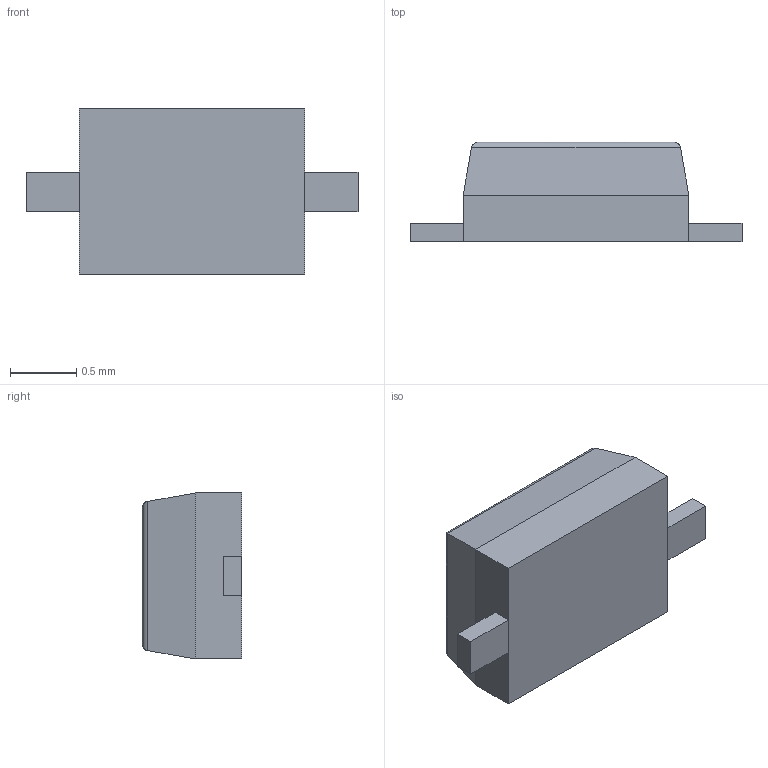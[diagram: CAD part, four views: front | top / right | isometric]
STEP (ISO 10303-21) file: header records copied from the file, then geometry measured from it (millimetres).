
FILE_DESCRIPTION (( 'STEP AP214' ), '1' );
FILE_NAME ( 'SODFL250X125X75L40X30.STEP', '2021-10-06T06:49:14', ( '' ), ( '' ), '', '©2017 PCB Libraries, Inc.', '' );
FILE_SCHEMA (( 'AUTOMOTIVE_DESIGN' ));
Length unit declared in the file: millimetre
Products named in the file (1): SODFL250X125X75L40X30
Bounding box: 2.5 x 0.75 x 1.25 mm (x, y, z)
Volume: 1.5 mm3; surface area: 9 mm2
Topology: 3 solids, 3 shells, 31 faces, 63 edges, 38 vertices
Faces by surface type: plane 27, cylinder 4
Entity records: 935 total; most frequent: CARTESIAN_POINT 145, ORIENTED_EDGE 126, DIRECTION 123, EDGE_CURVE 63, VECTOR 59, LINE 59, VERTEX_POINT 38, STYLED_ITEM 35
